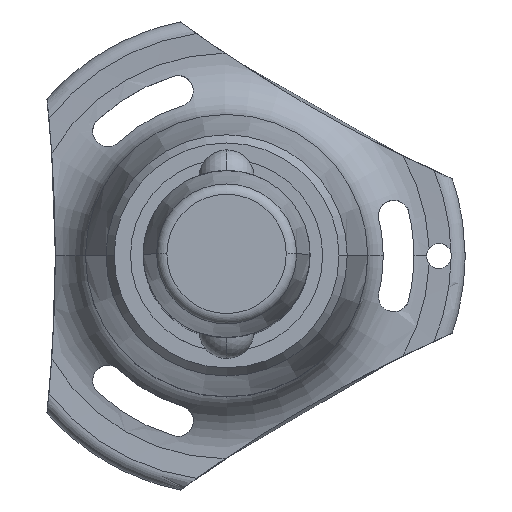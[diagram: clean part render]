
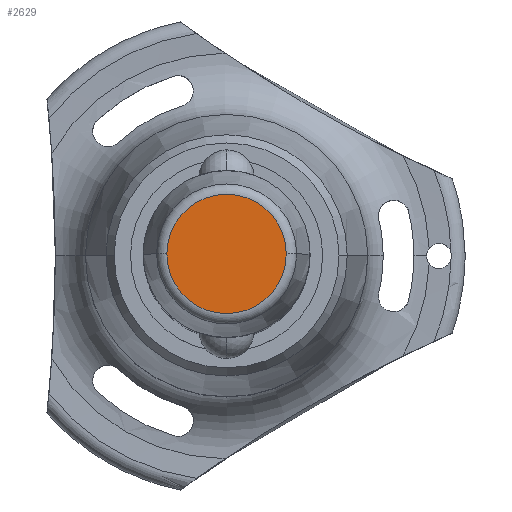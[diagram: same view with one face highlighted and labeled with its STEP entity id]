
A CAD part, top view. The second image highlights one B-rep face of the part: STEP entity #2629.
In plain terms, the highlighted planar face has unit normal (0, 0, 1).
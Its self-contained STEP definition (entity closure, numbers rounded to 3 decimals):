
#24 = EDGE_LOOP ( 'NONE', ( #2841, #1496 ) ) ;
#135 = DIRECTION ( 'NONE',  ( 1., 0., 0. ) ) ;
#359 = DIRECTION ( 'NONE',  ( 0., 0., 1. ) ) ;
#372 = CARTESIAN_POINT ( 'NONE',  ( 0., 0., 20.5 ) ) ;
#638 = DIRECTION ( 'NONE',  ( 0., 0., 1. ) ) ;
#853 = PLANE ( 'NONE',  #2527 ) ;
#940 = VERTEX_POINT ( 'NONE', #2816 ) ;
#1044 = AXIS2_PLACEMENT_3D ( 'NONE', #1046, #359, #135 ) ;
#1046 = CARTESIAN_POINT ( 'NONE',  ( 0., 0., 20.5 ) ) ;
#1142 = CARTESIAN_POINT ( 'NONE',  ( -7.144, 0., 20.5 ) ) ;
#1211 = VERTEX_POINT ( 'NONE', #1142 ) ;
#1232 = AXIS2_PLACEMENT_3D ( 'NONE', #2794, #1251, #2159 ) ;
#1251 = DIRECTION ( 'NONE',  ( 0., 0., 1. ) ) ;
#1306 = FACE_OUTER_BOUND ( 'NONE', #24, .T. ) ;
#1381 = CIRCLE ( 'NONE', #1232, 7.144 ) ;
#1496 = ORIENTED_EDGE ( 'NONE', *, *, #2556, .T. ) ;
#1509 = EDGE_CURVE ( 'NONE', #940, #1211, #1381, .T. ) ;
#1812 = DIRECTION ( 'NONE',  ( 1., 0., 0. ) ) ;
#1907 = CIRCLE ( 'NONE', #1044, 7.144 ) ;
#2159 = DIRECTION ( 'NONE',  ( 1., 0., 0. ) ) ;
#2527 = AXIS2_PLACEMENT_3D ( 'NONE', #372, #638, #1812 ) ;
#2556 = EDGE_CURVE ( 'NONE', #1211, #940, #1907, .T. ) ;
#2629 = ADVANCED_FACE ( 'NONE', ( #1306 ), #853, .T. ) ;
#2794 = CARTESIAN_POINT ( 'NONE',  ( 0., 0., 20.5 ) ) ;
#2816 = CARTESIAN_POINT ( 'NONE',  ( 7.144, 0., 20.5 ) ) ;
#2841 = ORIENTED_EDGE ( 'NONE', *, *, #1509, .T. ) ;
